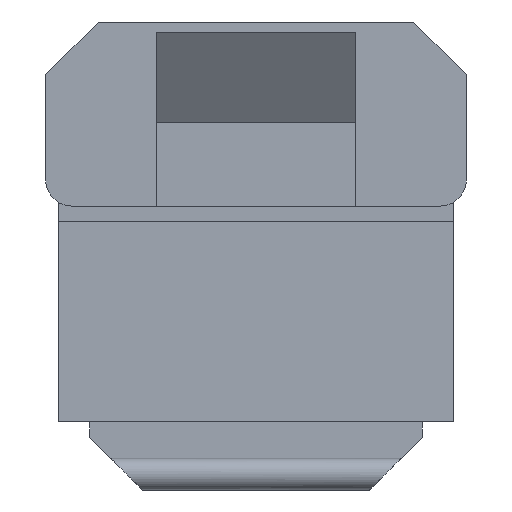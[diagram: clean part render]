
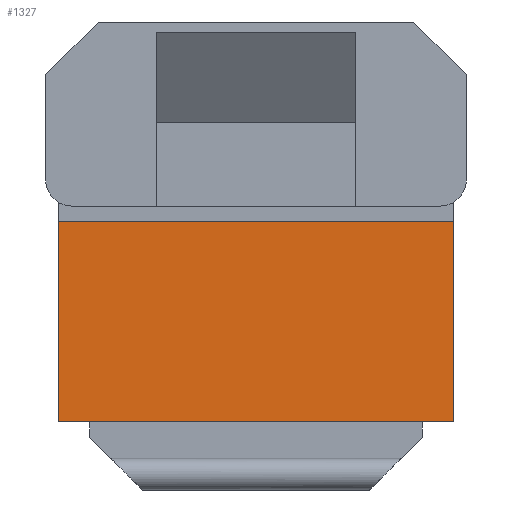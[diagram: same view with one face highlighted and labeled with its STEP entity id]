
A CAD part, left-side view. The second image highlights one B-rep face of the part: STEP entity #1327.
In plain terms, the highlighted planar face has unit normal (-1, 0, 0).
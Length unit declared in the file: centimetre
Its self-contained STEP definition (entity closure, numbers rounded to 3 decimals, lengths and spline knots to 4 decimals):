
#1035=CARTESIAN_POINT('',(-2.0,-3.75,-5.3));
#1036=VERTEX_POINT('',#1035);
#1043=CARTESIAN_POINT('',(-2.0,3.75,-5.3));
#1044=VERTEX_POINT('',#1043);
#1045=CARTESIAN_POINT('',(-2.0,3.75,-5.3));
#1046=DIRECTION('',(0.0,-1.0,0.0));
#1047=VECTOR('',#1046,7.5);
#1048=LINE('',#1045,#1047);
#1049=EDGE_CURVE('',#1044,#1036,#1048,.T.);
#1297=CARTESIAN_POINT('',(-2.0,3.75,-5.3));
#1298=DIRECTION('',(-1.0,0.0,0.0));
#1299=DIRECTION('',(0.0,0.0,1.0));
#1300=AXIS2_PLACEMENT_3D('',#1297,#1298,#1299);
#1301=PLANE('',#1300);
#1302=CARTESIAN_POINT('',(-2.0,-3.75,-1.5));
#1303=VERTEX_POINT('',#1302);
#1304=CARTESIAN_POINT('',(-2.0,-3.75,-5.3));
#1305=DIRECTION('',(0.0,0.0,1.0));
#1306=VECTOR('',#1305,3.8);
#1307=LINE('',#1304,#1306);
#1308=EDGE_CURVE('',#1036,#1303,#1307,.T.);
#1309=ORIENTED_EDGE('',*,*,#1308,.T.);
#1310=CARTESIAN_POINT('',(-2.0,3.75,-1.5));
#1311=VERTEX_POINT('',#1310);
#1312=CARTESIAN_POINT('',(-2.0,3.75,-1.5));
#1313=DIRECTION('',(0.0,-1.0,0.0));
#1314=VECTOR('',#1313,7.5);
#1315=LINE('',#1312,#1314);
#1316=EDGE_CURVE('',#1311,#1303,#1315,.T.);
#1317=ORIENTED_EDGE('',*,*,#1316,.F.);
#1318=CARTESIAN_POINT('',(-2.0,3.75,-5.3));
#1319=DIRECTION('',(0.0,0.0,1.0));
#1320=VECTOR('',#1319,3.8);
#1321=LINE('',#1318,#1320);
#1322=EDGE_CURVE('',#1044,#1311,#1321,.T.);
#1323=ORIENTED_EDGE('',*,*,#1322,.F.);
#1324=ORIENTED_EDGE('',*,*,#1049,.T.);
#1325=EDGE_LOOP('',(#1309,#1317,#1323,#1324));
#1326=FACE_OUTER_BOUND('',#1325,.T.);
#1327=ADVANCED_FACE('',(#1326),#1301,.T.);
